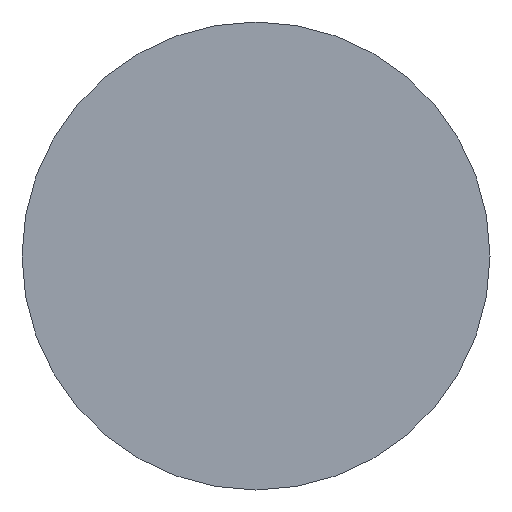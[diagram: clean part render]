
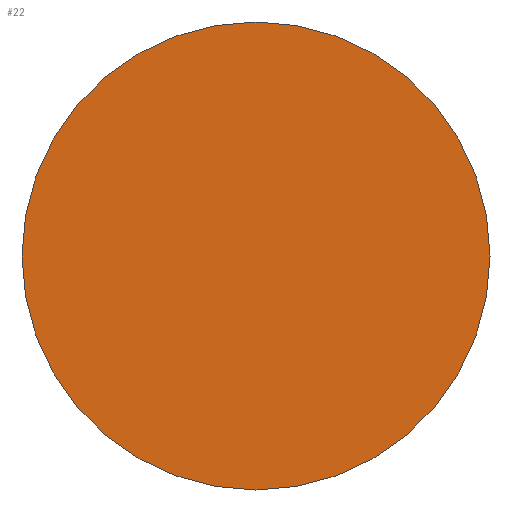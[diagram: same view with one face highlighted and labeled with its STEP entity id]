
A CAD part, left-side view. The second image highlights one B-rep face of the part: STEP entity #22.
In plain terms, the highlighted planar face has unit normal (-1, 0, 0).
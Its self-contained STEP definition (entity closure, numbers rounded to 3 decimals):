
#3 = AXIS2_PLACEMENT_3D ( 'NONE', #119, #169, #33 ) ;
#22 = ADVANCED_FACE ( 'NONE', ( #110 ), #148, .F. ) ;
#23 = AXIS2_PLACEMENT_3D ( 'NONE', #50, #59, #63 ) ;
#29 = CIRCLE ( 'NONE', #3, 2. ) ;
#33 = DIRECTION ( 'NONE',  ( 0., 0., 1. ) ) ;
#49 = ORIENTED_EDGE ( 'NONE', *, *, #99, .T. ) ;
#50 = CARTESIAN_POINT ( 'NONE',  ( 0., 0., 0. ) ) ;
#55 = CARTESIAN_POINT ( 'NONE',  ( 0., 0., 2. ) ) ;
#59 = DIRECTION ( 'NONE',  ( -1., 0., 0. ) ) ;
#63 = DIRECTION ( 'NONE',  ( 0., 0., 1. ) ) ;
#99 = EDGE_CURVE ( 'NONE', #188, #145, #207, .T. ) ;
#100 = DIRECTION ( 'NONE',  ( 1., 0., 0. ) ) ;
#110 = FACE_OUTER_BOUND ( 'NONE', #141, .T. ) ;
#116 = DIRECTION ( 'NONE',  ( 0., 0., -1. ) ) ;
#119 = CARTESIAN_POINT ( 'NONE',  ( 0., 0., 0. ) ) ;
#123 = EDGE_CURVE ( 'NONE', #145, #188, #29, .T. ) ;
#137 = AXIS2_PLACEMENT_3D ( 'NONE', #257, #100, #116 ) ;
#141 = EDGE_LOOP ( 'NONE', ( #245, #49 ) ) ;
#145 = VERTEX_POINT ( 'NONE', #55 ) ;
#148 = PLANE ( 'NONE',  #137 ) ;
#169 = DIRECTION ( 'NONE',  ( -1., 0., 0. ) ) ;
#188 = VERTEX_POINT ( 'NONE', #279 ) ;
#207 = CIRCLE ( 'NONE', #23, 2. ) ;
#245 = ORIENTED_EDGE ( 'NONE', *, *, #123, .T. ) ;
#257 = CARTESIAN_POINT ( 'NONE',  ( 0., 0., 0. ) ) ;
#279 = CARTESIAN_POINT ( 'NONE',  ( 0., 0., -2. ) ) ;
